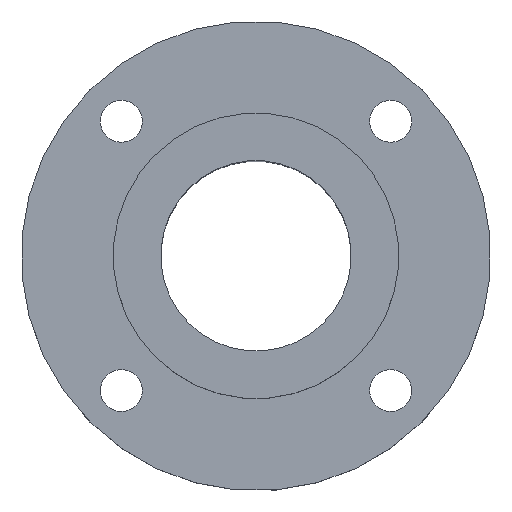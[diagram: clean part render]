
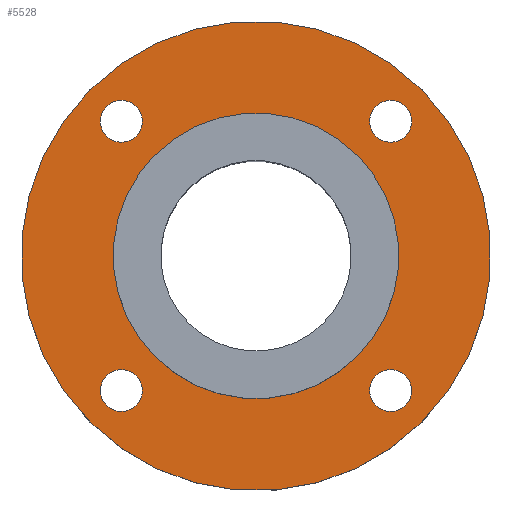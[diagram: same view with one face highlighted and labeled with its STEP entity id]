
A CAD part, top view. The second image highlights one B-rep face of the part: STEP entity #5528.
In plain terms, the highlighted planar face has unit normal (0, 0, 1).
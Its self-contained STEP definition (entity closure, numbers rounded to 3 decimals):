
#114=CIRCLE('',#5880,22.5);
#118=CIRCLE('',#5888,37.);
#119=CIRCLE('',#5890,3.3);
#120=CIRCLE('',#5891,3.3);
#121=CIRCLE('',#5892,3.3);
#122=CIRCLE('',#5893,3.3);
#517=ORIENTED_EDGE('',*,*,#2101,.F.);
#518=ORIENTED_EDGE('',*,*,#2102,.F.);
#519=ORIENTED_EDGE('',*,*,#2103,.F.);
#520=ORIENTED_EDGE('',*,*,#2104,.F.);
#521=ORIENTED_EDGE('',*,*,#2096,.T.);
#522=ORIENTED_EDGE('',*,*,#2100,.T.);
#2096=EDGE_CURVE('',#2891,#2891,#114,.F.);
#2100=EDGE_CURVE('',#2895,#2895,#118,.T.);
#2101=EDGE_CURVE('',#2896,#2896,#119,.T.);
#2102=EDGE_CURVE('',#2897,#2897,#120,.T.);
#2103=EDGE_CURVE('',#2898,#2898,#121,.T.);
#2104=EDGE_CURVE('',#2899,#2899,#122,.T.);
#2891=VERTEX_POINT('',#8793);
#2895=VERTEX_POINT('',#8805);
#2896=VERTEX_POINT('',#8808);
#2897=VERTEX_POINT('',#8810);
#2898=VERTEX_POINT('',#8812);
#2899=VERTEX_POINT('',#8814);
#4522=EDGE_LOOP('',(#517));
#4523=EDGE_LOOP('',(#518));
#4524=EDGE_LOOP('',(#519));
#4525=EDGE_LOOP('',(#520));
#4526=EDGE_LOOP('',(#521));
#4527=EDGE_LOOP('',(#522));
#4927=FACE_BOUND('',#4522,.T.);
#4928=FACE_BOUND('',#4523,.T.);
#4929=FACE_BOUND('',#4524,.T.);
#4930=FACE_BOUND('',#4525,.T.);
#4931=FACE_BOUND('',#4526,.T.);
#4932=FACE_BOUND('',#4527,.T.);
#5275=PLANE('',#5889);
#5528=ADVANCED_FACE('',(#4927,#4928,#4929,#4930,#4931,#4932),#5275,.T.);
#5880=AXIS2_PLACEMENT_3D('',#8792,#6384,#6385);
#5888=AXIS2_PLACEMENT_3D('',#8804,#6400,#6401);
#5889=AXIS2_PLACEMENT_3D('',#8806,#6402,#6403);
#5890=AXIS2_PLACEMENT_3D('',#8807,#6404,#6405);
#5891=AXIS2_PLACEMENT_3D('',#8809,#6406,#6407);
#5892=AXIS2_PLACEMENT_3D('',#8811,#6408,#6409);
#5893=AXIS2_PLACEMENT_3D('',#8813,#6410,#6411);
#6384=DIRECTION('',(0.,0.,1.));
#6385=DIRECTION('',(0.707,-0.707,0.));
#6400=DIRECTION('',(0.,0.,1.));
#6401=DIRECTION('',(0.707,-0.707,0.));
#6402=DIRECTION('',(0.,0.,1.));
#6403=DIRECTION('',(0.707,-0.707,0.));
#6404=DIRECTION('',(0.,0.,1.));
#6405=DIRECTION('',(0.707,-0.707,0.));
#6406=DIRECTION('',(0.,0.,1.));
#6407=DIRECTION('',(0.707,-0.707,0.));
#6408=DIRECTION('',(0.,0.,1.));
#6409=DIRECTION('',(0.707,-0.707,0.));
#6410=DIRECTION('',(0.,0.,1.));
#6411=DIRECTION('',(0.707,-0.707,0.));
#8792=CARTESIAN_POINT('',(0.,0.,0.));
#8793=CARTESIAN_POINT('',(15.91,-15.91,0.));
#8804=CARTESIAN_POINT('',(0.,0.,0.));
#8805=CARTESIAN_POINT('',(26.163,-26.163,0.));
#8806=CARTESIAN_POINT('',(0.,0.,0.));
#8807=CARTESIAN_POINT('',(21.213,21.213,0.));
#8808=CARTESIAN_POINT('',(23.547,18.88,0.));
#8809=CARTESIAN_POINT('',(-21.213,21.213,0.));
#8810=CARTESIAN_POINT('',(-18.88,18.88,0.));
#8811=CARTESIAN_POINT('',(-21.213,-21.213,0.));
#8812=CARTESIAN_POINT('',(-18.88,-23.547,0.));
#8813=CARTESIAN_POINT('',(21.213,-21.213,0.));
#8814=CARTESIAN_POINT('',(23.547,-23.547,0.));
